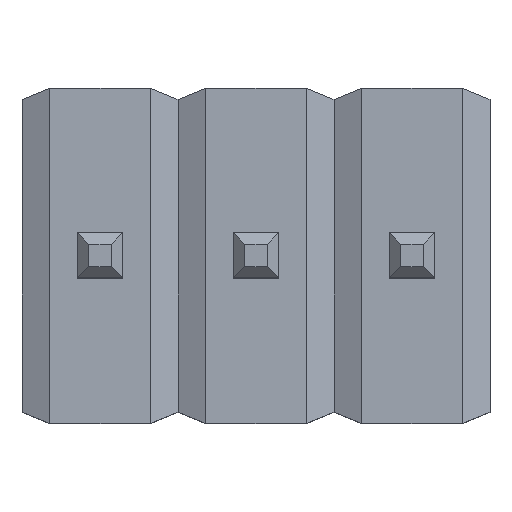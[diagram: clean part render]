
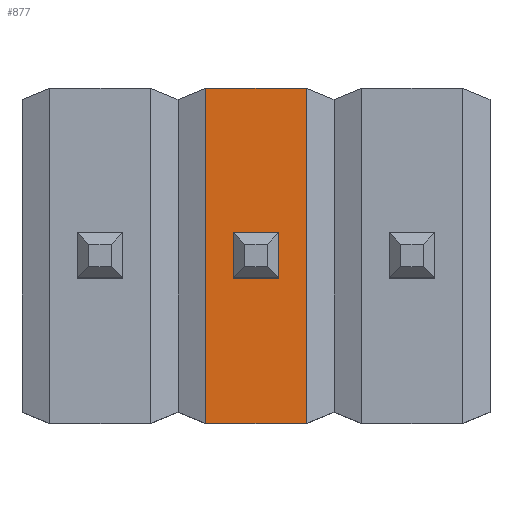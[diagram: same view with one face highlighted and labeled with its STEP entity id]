
A CAD part, top view. The second image highlights one B-rep face of the part: STEP entity #877.
In plain terms, the highlighted planar face has unit normal (0, 0, 1).
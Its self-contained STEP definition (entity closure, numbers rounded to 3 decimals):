
#849=CARTESIAN_POINT('',(5.236,4.254,3.175));
#848=VERTEX_POINT('',#849);
#859=CARTESIAN_POINT('',(5.236,-4.254,3.175));
#858=VERTEX_POINT('',#859);
#857=EDGE_CURVE('',#858,#848,#862,.T.);
#862=LINE('',#859,#864);
#864=VECTOR('',#865,8.509);
#865=DIRECTION('',(0.0,1.0,0.0));
#877=ADVANCED_FACE('',(#883),#878,.T.);
#878=PLANE('',#879);
#879=AXIS2_PLACEMENT_3D('',#880,#881,#882);
#880=CARTESIAN_POINT('',(2.684,-4.254,3.175));
#881=DIRECTION('',(0.0,0.0,1.0));
#882=DIRECTION('',(0.,1.,0.));
#883=FACE_OUTER_BOUND('',#884,.T.);
#884=EDGE_LOOP('',(#885,#895,#905,#915));
#890=CARTESIAN_POINT('',(2.684,-4.254,3.175));
#889=VERTEX_POINT('',#890);
#886=EDGE_CURVE('',#858,#889,#891,.T.);
#891=LINE('',#859,#893);
#893=VECTOR('',#894,2.551);
#894=DIRECTION('',(-1.0,0.0,0.0));
#885=ORIENTED_EDGE('',*,*,#886,.F.);
#895=ORIENTED_EDGE('',*,*,#857,.T.);
#908=CARTESIAN_POINT('',(2.684,4.254,3.175));
#907=VERTEX_POINT('',#908);
#906=EDGE_CURVE('',#907,#848,#911,.T.);
#911=LINE('',#908,#913);
#913=VECTOR('',#914,2.551);
#914=DIRECTION('',(1.0,0.0,0.0));
#905=ORIENTED_EDGE('',*,*,#906,.F.);
#916=EDGE_CURVE('',#889,#907,#921,.T.);
#921=LINE('',#890,#923);
#923=VECTOR('',#924,8.509);
#924=DIRECTION('',(0.0,1.0,0.0));
#915=ORIENTED_EDGE('',*,*,#916,.F.);
